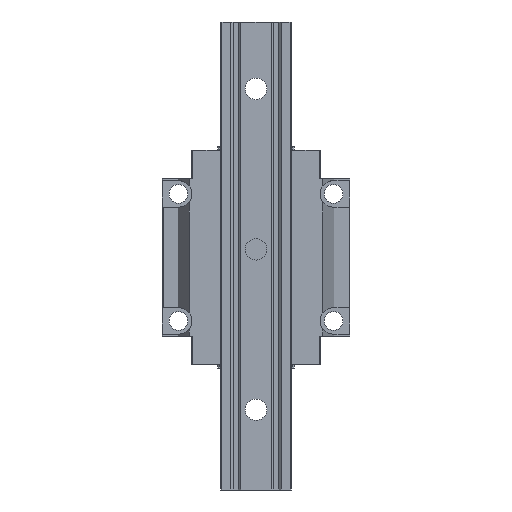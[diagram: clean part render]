
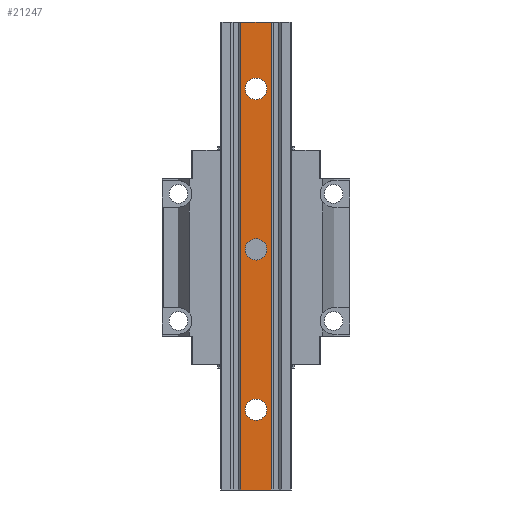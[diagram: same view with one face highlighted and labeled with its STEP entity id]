
A CAD part, front view. The second image highlights one B-rep face of the part: STEP entity #21247.
In plain terms, the highlighted planar face has unit normal (0, -1, 0).
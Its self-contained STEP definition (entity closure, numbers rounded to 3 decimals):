
#350 = ORIENTED_EDGE ( 'NONE', *, *, #34542, .T. ) ;
#1899 = ORIENTED_EDGE ( 'NONE', *, *, #14084, .T. ) ;
#1940 = DIRECTION ( 'NONE',  ( 0., 1., 0. ) ) ;
#2436 = CIRCLE ( 'NONE', #7902, 8. ) ;
#3810 = CARTESIAN_POINT ( 'NONE',  ( 0., 0., -290. ) ) ;
#4214 = CIRCLE ( 'NONE', #24172, 8. ) ;
#4993 = CARTESIAN_POINT ( 'NONE',  ( 26.5, 0., 0. ) ) ;
#4995 = EDGE_CURVE ( 'NONE', #36432, #26068, #22796, .T. ) ;
#5239 = EDGE_CURVE ( 'NONE', #13611, #21941, #30865, .T. ) ;
#5470 = CARTESIAN_POINT ( 'NONE',  ( -11.357, 0., 0. ) ) ;
#6756 = DIRECTION ( 'NONE',  ( 0., 0., 1. ) ) ;
#7420 = CARTESIAN_POINT ( 'NONE',  ( 0., 0., -282. ) ) ;
#7718 = ORIENTED_EDGE ( 'NONE', *, *, #5239, .T. ) ;
#7902 = AXIS2_PLACEMENT_3D ( 'NONE', #27287, #35808, #12961 ) ;
#7951 = VERTEX_POINT ( 'NONE', #10705 ) ;
#8198 = DIRECTION ( 'NONE',  ( 0., 0., 1. ) ) ;
#8600 = CARTESIAN_POINT ( 'NONE',  ( -26.5, 0., -350. ) ) ;
#8996 = CIRCLE ( 'NONE', #25357, 8. ) ;
#9096 = DIRECTION ( 'NONE',  ( 0., 0., -1. ) ) ;
#9429 = CARTESIAN_POINT ( 'NONE',  ( -11.357, 0., -350. ) ) ;
#10705 = CARTESIAN_POINT ( 'NONE',  ( 11.357, 0., -350. ) ) ;
#10889 = ORIENTED_EDGE ( 'NONE', *, *, #4995, .T. ) ;
#11205 = DIRECTION ( 'NONE',  ( 0., 0., 1. ) ) ;
#11801 = DIRECTION ( 'NONE',  ( 0., 0., 1. ) ) ;
#12299 = DIRECTION ( 'NONE',  ( 0., 0., 1. ) ) ;
#12432 = DIRECTION ( 'NONE',  ( 0., 1., 0. ) ) ;
#12540 = DIRECTION ( 'NONE',  ( 0., 1., 0. ) ) ;
#12961 = DIRECTION ( 'NONE',  ( 0., 0., 1. ) ) ;
#13120 = AXIS2_PLACEMENT_3D ( 'NONE', #34578, #29070, #19882 ) ;
#13611 = VERTEX_POINT ( 'NONE', #13906 ) ;
#13803 = CARTESIAN_POINT ( 'NONE',  ( -11.357, 0., -700. ) ) ;
#13906 = CARTESIAN_POINT ( 'NONE',  ( 11.357, 0., 0. ) ) ;
#14084 = EDGE_CURVE ( 'NONE', #34044, #32242, #4214, .T. ) ;
#14349 = VECTOR ( 'NONE', #16925, 1000. ) ;
#14719 = EDGE_LOOP ( 'NONE', ( #10889, #23081 ) ) ;
#15970 = VERTEX_POINT ( 'NONE', #26676 ) ;
#16617 = AXIS2_PLACEMENT_3D ( 'NONE', #20403, #12432, #6756 ) ;
#16618 = LINE ( 'NONE', #13803, #26566 ) ;
#16815 = VERTEX_POINT ( 'NONE', #9429 ) ;
#16925 = DIRECTION ( 'NONE',  ( 1., 0., 0. ) ) ;
#16957 = DIRECTION ( 'NONE',  ( -1., 0., 0. ) ) ;
#17175 = EDGE_LOOP ( 'NONE', ( #30554, #7718, #18772, #31271 ) ) ;
#17491 = EDGE_LOOP ( 'NONE', ( #22508, #350 ) ) ;
#17590 = FACE_BOUND ( 'NONE', #37173, .T. ) ;
#18772 = ORIENTED_EDGE ( 'NONE', *, *, #22934, .T. ) ;
#19882 = DIRECTION ( 'NONE',  ( 0., 0., 1. ) ) ;
#19931 = EDGE_CURVE ( 'NONE', #32242, #34044, #8996, .T. ) ;
#20403 = CARTESIAN_POINT ( 'NONE',  ( 0., 0., -170. ) ) ;
#20614 = DIRECTION ( 'NONE',  ( 0., -1., 0. ) ) ;
#20806 = CARTESIAN_POINT ( 'NONE',  ( 11.357, 0., -768.884 ) ) ;
#20991 = LINE ( 'NONE', #20806, #23769 ) ;
#21032 = EDGE_CURVE ( 'NONE', #26068, #36432, #26521, .T. ) ;
#21247 = ADVANCED_FACE ( 'NONE', ( #29223, #32254, #17590, #29051 ), #23439, .T. ) ;
#21691 = CARTESIAN_POINT ( 'NONE',  ( 0., 0., -162. ) ) ;
#21941 = VERTEX_POINT ( 'NONE', #5470 ) ;
#22051 = CIRCLE ( 'NONE', #16617, 8. ) ;
#22508 = ORIENTED_EDGE ( 'NONE', *, *, #30194, .T. ) ;
#22796 = CIRCLE ( 'NONE', #13120, 8. ) ;
#22934 = EDGE_CURVE ( 'NONE', #21941, #16815, #16618, .T. ) ;
#23081 = ORIENTED_EDGE ( 'NONE', *, *, #21032, .T. ) ;
#23439 = PLANE ( 'NONE',  #35442 ) ;
#23769 = VECTOR ( 'NONE', #12299, 1000. ) ;
#24172 = AXIS2_PLACEMENT_3D ( 'NONE', #25418, #1940, #8198 ) ;
#24924 = CARTESIAN_POINT ( 'NONE',  ( 0., 0., -42. ) ) ;
#25357 = AXIS2_PLACEMENT_3D ( 'NONE', #3810, #12540, #11801 ) ;
#25418 = CARTESIAN_POINT ( 'NONE',  ( 0., 0., -290. ) ) ;
#26068 = VERTEX_POINT ( 'NONE', #37348 ) ;
#26521 = CIRCLE ( 'NONE', #31333, 8. ) ;
#26566 = VECTOR ( 'NONE', #28101, 1000. ) ;
#26676 = CARTESIAN_POINT ( 'NONE',  ( 0., 0., -178. ) ) ;
#27287 = CARTESIAN_POINT ( 'NONE',  ( 0., 0., -170. ) ) ;
#28011 = LINE ( 'NONE', #8600, #14349 ) ;
#28101 = DIRECTION ( 'NONE',  ( 0., 0., -1. ) ) ;
#29051 = FACE_OUTER_BOUND ( 'NONE', #17175, .T. ) ;
#29070 = DIRECTION ( 'NONE',  ( 0., 1., 0. ) ) ;
#29223 = FACE_BOUND ( 'NONE', #14719, .T. ) ;
#29326 = EDGE_CURVE ( 'NONE', #7951, #13611, #20991, .T. ) ;
#30194 = EDGE_CURVE ( 'NONE', #35386, #15970, #22051, .T. ) ;
#30554 = ORIENTED_EDGE ( 'NONE', *, *, #29326, .T. ) ;
#30865 = LINE ( 'NONE', #4993, #37270 ) ;
#31271 = ORIENTED_EDGE ( 'NONE', *, *, #31645, .T. ) ;
#31333 = AXIS2_PLACEMENT_3D ( 'NONE', #34413, #37084, #11205 ) ;
#31645 = EDGE_CURVE ( 'NONE', #16815, #7951, #28011, .T. ) ;
#32242 = VERTEX_POINT ( 'NONE', #34256 ) ;
#32254 = FACE_BOUND ( 'NONE', #17491, .T. ) ;
#34044 = VERTEX_POINT ( 'NONE', #7420 ) ;
#34256 = CARTESIAN_POINT ( 'NONE',  ( 0., 0., -298. ) ) ;
#34413 = CARTESIAN_POINT ( 'NONE',  ( 0., 0., -50. ) ) ;
#34542 = EDGE_CURVE ( 'NONE', #15970, #35386, #2436, .T. ) ;
#34578 = CARTESIAN_POINT ( 'NONE',  ( 0., 0., -50. ) ) ;
#34925 = CARTESIAN_POINT ( 'NONE',  ( -26.5, 0., -768.884 ) ) ;
#35386 = VERTEX_POINT ( 'NONE', #21691 ) ;
#35442 = AXIS2_PLACEMENT_3D ( 'NONE', #34925, #20614, #9096 ) ;
#35808 = DIRECTION ( 'NONE',  ( 0., 1., 0. ) ) ;
#36432 = VERTEX_POINT ( 'NONE', #24924 ) ;
#37002 = ORIENTED_EDGE ( 'NONE', *, *, #19931, .T. ) ;
#37084 = DIRECTION ( 'NONE',  ( 0., 1., 0. ) ) ;
#37173 = EDGE_LOOP ( 'NONE', ( #1899, #37002 ) ) ;
#37270 = VECTOR ( 'NONE', #16957, 1000. ) ;
#37348 = CARTESIAN_POINT ( 'NONE',  ( 0., 0., -58. ) ) ;
